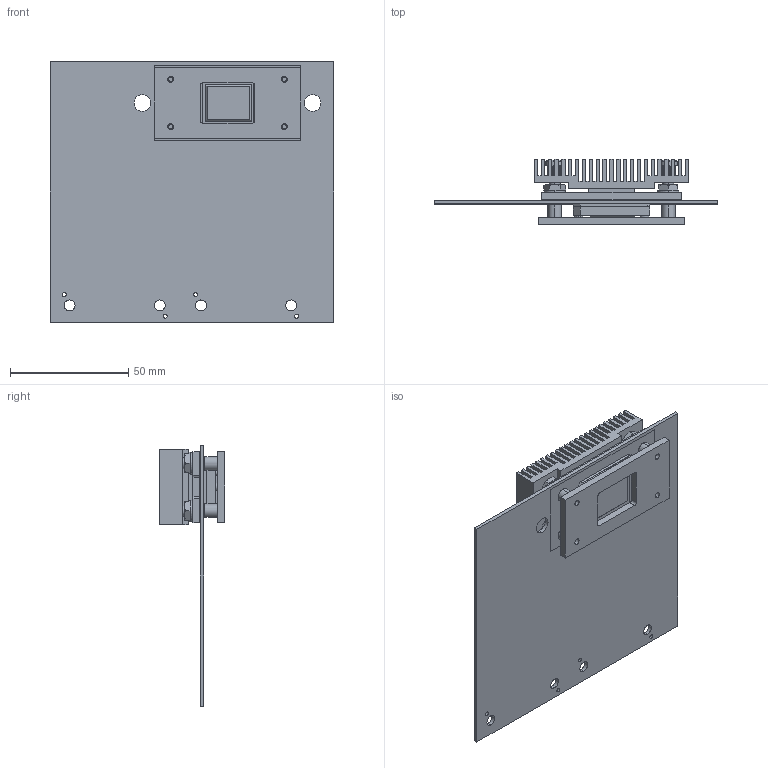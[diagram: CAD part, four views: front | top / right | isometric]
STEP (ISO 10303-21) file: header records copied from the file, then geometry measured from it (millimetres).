
FILE_DESCRIPTION (( 'STEP AP214' ), '1' );
FILE_NAME ('2515302-wJose.STEP', '2016-11-01T12:34:13', ( '' ), ( '' ), 'SwSTEP 2.0', 'SolidWorks 2013', '' );
FILE_SCHEMA (( 'AUTOMOTIVE_DESIGN' ));
Length unit declared in the file: millimetre
Products named in the file (23): s410-47-1080p-DMD_Ceramic; SymPadA-s410; Elec-Pad-Assy; Test-Pad-s410-DMD; Elec-Pad-s410-DMD; s410-Window-All; 2515279_REV-04; s410-47-1080p-Ceramic; Coil-Spring-s410; 2515303; 2515292-Compressed; 2515251; 2515302-wJose; 2515305; 2515247-Compressed; 2515252; 2515304; 2515306; 2515307; PCB Elec-Pad-Assy; PCB-Elec-Pad-s410-DMD; 2515307-PCB-Raw-s410-EVM; 2515243
Assembly tree (561 placements, depth 4):
  2515302-wJose
    2515303
    s410-47-1080p-DMD_Ceramic
      s410-47-1080p-Ceramic
      s410-Window-All
      Elec-Pad-Assy
        Elec-Pad-s410-DMD  x257
        Test-Pad-s410-DMD  x16
      SymPadA-s410
    2515243
    2515307
      2515307-PCB-Raw-s410-EVM
      PCB Elec-Pad-Assy
        PCB-Elec-Pad-s410-DMD  x257
    2515306
    2515304
    2515252  x4
    2515247-Compressed
    2515305
    2515251  x4
    2515292-Compressed  x4
    Coil-Spring-s410  x4
    2515279_REV-04
Bounding box: 120 x 27.67 x 110 mm (x, y, z)
Volume: 52019 mm3; surface area: 66635 mm2
Topology: 557 solids, 557 shells, 5619 faces, 11591 edges, 7664 vertices
Faces by surface type: plane 4105, cylinder 1356, cone 110, torus 40, bspline 8
Entity records: 69442 total; most frequent: DIRECTION 13062, CARTESIAN_POINT 12290, ORIENTED_EDGE 9708, AXIS2_PLACEMENT_3D 5441, EDGE_CURVE 4854, VERTEX_POINT 3211, EDGE_LOOP 2901, CIRCLE 2634
